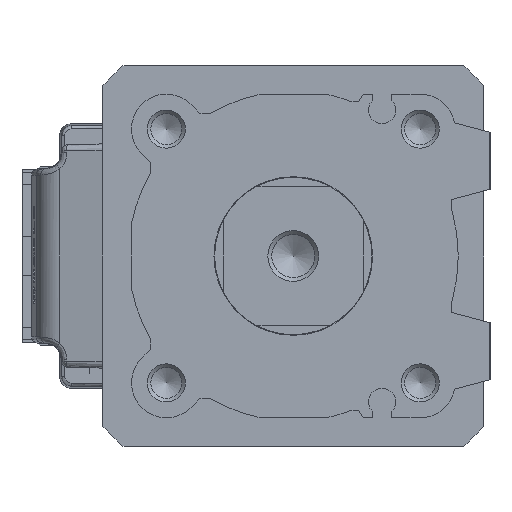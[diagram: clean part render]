
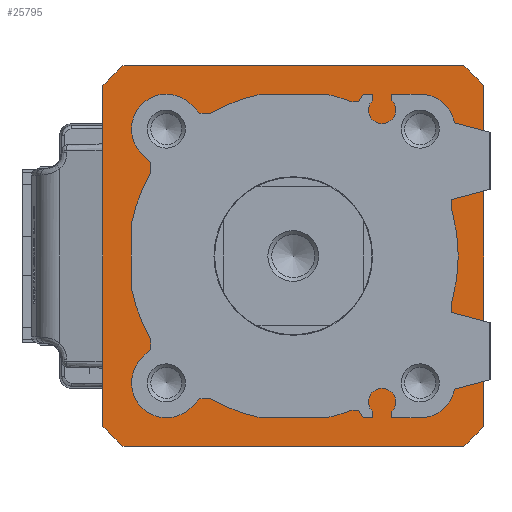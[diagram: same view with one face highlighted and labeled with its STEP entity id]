
A CAD part, left-side view. The second image highlights one B-rep face of the part: STEP entity #25795.
In plain terms, the highlighted planar face has unit normal (-1, 0, 0) as drawn and (0, 0, 1) by its records, which use the part's own axes.
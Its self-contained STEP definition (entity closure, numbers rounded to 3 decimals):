
#440 = VECTOR ( 'NONE', #48282, 1000. ) ;
#680 = DIRECTION ( 'NONE',  ( 1., 0., 0. ) ) ;
#754 = CARTESIAN_POINT ( 'NONE',  ( -30., 26.834, 0. ) ) ;
#908 = EDGE_CURVE ( 'NONE', #12116, #20936, #45693, .T. ) ;
#1075 = CIRCLE ( 'NONE', #23947, 40.25 ) ;
#1338 = LINE ( 'NONE', #14160, #32487 ) ;
#1822 = DIRECTION ( 'NONE',  ( 1., 0., 0. ) ) ;
#2232 = DIRECTION ( 'NONE',  ( 1., 0., 0. ) ) ;
#2332 = CARTESIAN_POINT ( 'NONE',  ( 0., 0., 0. ) ) ;
#3132 = CARTESIAN_POINT ( 'NONE',  ( 0., 0., 0. ) ) ;
#3811 = CARTESIAN_POINT ( 'NONE',  ( -30., -26.834, 0. ) ) ;
#5222 = DIRECTION ( 'NONE',  ( -1., 0., 0. ) ) ;
#5895 = EDGE_CURVE ( 'NONE', #35500, #40972, #1338, .T. ) ;
#6027 = DIRECTION ( 'NONE',  ( 1., 0., 0. ) ) ;
#7033 = VERTEX_POINT ( 'NONE', #3811 ) ;
#7219 = ORIENTED_EDGE ( 'NONE', *, *, #39731, .T. ) ;
#8099 = CIRCLE ( 'NONE', #15465, 40.25 ) ;
#8360 = DIRECTION ( 'NONE',  ( 0., 0., 1. ) ) ;
#8444 = VERTEX_POINT ( 'NONE', #31938 ) ;
#8739 = DIRECTION ( 'NONE',  ( 0., 0., 1. ) ) ;
#10167 = EDGE_CURVE ( 'NONE', #7033, #18619, #8099, .T. ) ;
#10198 = CARTESIAN_POINT ( 'NONE',  ( -26.834, 30., 0. ) ) ;
#10585 = AXIS2_PLACEMENT_3D ( 'NONE', #28754, #45353, #6027 ) ;
#11183 = CARTESIAN_POINT ( 'NONE',  ( 15.6, 0., 0. ) ) ;
#12116 = VERTEX_POINT ( 'NONE', #11183 ) ;
#12196 = CARTESIAN_POINT ( 'NONE',  ( 26.834, 30., 0. ) ) ;
#12591 = DIRECTION ( 'NONE',  ( 1., 0., 0. ) ) ;
#13106 = FACE_BOUND ( 'NONE', #50108, .T. ) ;
#14160 = CARTESIAN_POINT ( 'NONE',  ( 26.834, 30., 0. ) ) ;
#15465 = AXIS2_PLACEMENT_3D ( 'NONE', #38520, #27254, #47914 ) ;
#15834 = AXIS2_PLACEMENT_3D ( 'NONE', #2332, #24807, #1822 ) ;
#17338 = CARTESIAN_POINT ( 'NONE',  ( 30., -26.834, 0. ) ) ;
#18551 = ORIENTED_EDGE ( 'NONE', *, *, #43890, .T. ) ;
#18619 = VERTEX_POINT ( 'NONE', #30306 ) ;
#18726 = VECTOR ( 'NONE', #20444, 1000. ) ;
#19182 = CARTESIAN_POINT ( 'NONE',  ( 30., -26.834, 0. ) ) ;
#19239 = DIRECTION ( 'NONE',  ( 0., 0., 1. ) ) ;
#19278 = AXIS2_PLACEMENT_3D ( 'NONE', #36448, #8360, #680 ) ;
#20003 = CARTESIAN_POINT ( 'NONE',  ( 0., 0., 0. ) ) ;
#20444 = DIRECTION ( 'NONE',  ( 0., -1., 0. ) ) ;
#20936 = VERTEX_POINT ( 'NONE', #48184 ) ;
#21215 = VERTEX_POINT ( 'NONE', #49670 ) ;
#21808 = EDGE_CURVE ( 'NONE', #18619, #34438, #41110, .T. ) ;
#21886 = LINE ( 'NONE', #17338, #440 ) ;
#22464 = ORIENTED_EDGE ( 'NONE', *, *, #21808, .T. ) ;
#23575 = PLANE ( 'NONE',  #15834 ) ;
#23781 = ORIENTED_EDGE ( 'NONE', *, *, #24448, .T. ) ;
#23947 = AXIS2_PLACEMENT_3D ( 'NONE', #31727, #43740, #39631 ) ;
#24448 = EDGE_CURVE ( 'NONE', #21215, #35500, #1075, .T. ) ;
#24807 = DIRECTION ( 'NONE',  ( 0., 0., 1. ) ) ;
#25795 = ADVANCED_FACE ( 'NONE', ( #13106, #35852 ), #23575, .T. ) ;
#27243 = ORIENTED_EDGE ( 'NONE', *, *, #28482, .F. ) ;
#27254 = DIRECTION ( 'NONE',  ( 0., 0., 1. ) ) ;
#27512 = EDGE_CURVE ( 'NONE', #38689, #21215, #21886, .T. ) ;
#27673 = EDGE_LOOP ( 'NONE', ( #18551, #7219, #34728, #22464, #30247, #44716, #23781, #31601 ) ) ;
#28482 = EDGE_CURVE ( 'NONE', #20936, #12116, #31529, .T. ) ;
#28754 = CARTESIAN_POINT ( 'NONE',  ( 0., 0., 0. ) ) ;
#30247 = ORIENTED_EDGE ( 'NONE', *, *, #31204, .T. ) ;
#30306 = CARTESIAN_POINT ( 'NONE',  ( -26.834, -30., 0. ) ) ;
#31204 = EDGE_CURVE ( 'NONE', #34438, #38689, #47342, .T. ) ;
#31529 = CIRCLE ( 'NONE', #19278, 15.6 ) ;
#31601 = ORIENTED_EDGE ( 'NONE', *, *, #5895, .T. ) ;
#31727 = CARTESIAN_POINT ( 'NONE',  ( 0., 0., 0. ) ) ;
#31938 = CARTESIAN_POINT ( 'NONE',  ( -30., 26.834, 0. ) ) ;
#32045 = ORIENTED_EDGE ( 'NONE', *, *, #908, .F. ) ;
#32487 = VECTOR ( 'NONE', #5222, 1000. ) ;
#33495 = AXIS2_PLACEMENT_3D ( 'NONE', #3132, #19239, #42026 ) ;
#34438 = VERTEX_POINT ( 'NONE', #37798 ) ;
#34728 = ORIENTED_EDGE ( 'NONE', *, *, #10167, .T. ) ;
#35500 = VERTEX_POINT ( 'NONE', #12196 ) ;
#35778 = LINE ( 'NONE', #754, #18726 ) ;
#35852 = FACE_OUTER_BOUND ( 'NONE', #27673, .T. ) ;
#36448 = CARTESIAN_POINT ( 'NONE',  ( 0., 0., 0. ) ) ;
#36995 = CARTESIAN_POINT ( 'NONE',  ( -26.834, -30., 0. ) ) ;
#37798 = CARTESIAN_POINT ( 'NONE',  ( 26.834, -30., 0. ) ) ;
#38520 = CARTESIAN_POINT ( 'NONE',  ( 0., 0., 0. ) ) ;
#38689 = VERTEX_POINT ( 'NONE', #19182 ) ;
#39631 = DIRECTION ( 'NONE',  ( 1., 0., 0. ) ) ;
#39731 = EDGE_CURVE ( 'NONE', #8444, #7033, #35778, .T. ) ;
#40972 = VERTEX_POINT ( 'NONE', #10198 ) ;
#41110 = LINE ( 'NONE', #36995, #49722 ) ;
#42026 = DIRECTION ( 'NONE',  ( 1., 0., 0. ) ) ;
#43740 = DIRECTION ( 'NONE',  ( 0., 0., 1. ) ) ;
#43890 = EDGE_CURVE ( 'NONE', #40972, #8444, #49273, .T. ) ;
#44309 = AXIS2_PLACEMENT_3D ( 'NONE', #20003, #8739, #12591 ) ;
#44716 = ORIENTED_EDGE ( 'NONE', *, *, #27512, .T. ) ;
#45353 = DIRECTION ( 'NONE',  ( 0., 0., 1. ) ) ;
#45693 = CIRCLE ( 'NONE', #33495, 15.6 ) ;
#47342 = CIRCLE ( 'NONE', #10585, 40.25 ) ;
#47914 = DIRECTION ( 'NONE',  ( 1., 0., 0. ) ) ;
#48184 = CARTESIAN_POINT ( 'NONE',  ( -15.6, 0., 0. ) ) ;
#48282 = DIRECTION ( 'NONE',  ( 0., 1., 0. ) ) ;
#49273 = CIRCLE ( 'NONE', #44309, 40.25 ) ;
#49670 = CARTESIAN_POINT ( 'NONE',  ( 30., 26.834, 0. ) ) ;
#49722 = VECTOR ( 'NONE', #2232, 1000. ) ;
#50108 = EDGE_LOOP ( 'NONE', ( #27243, #32045 ) ) ;
